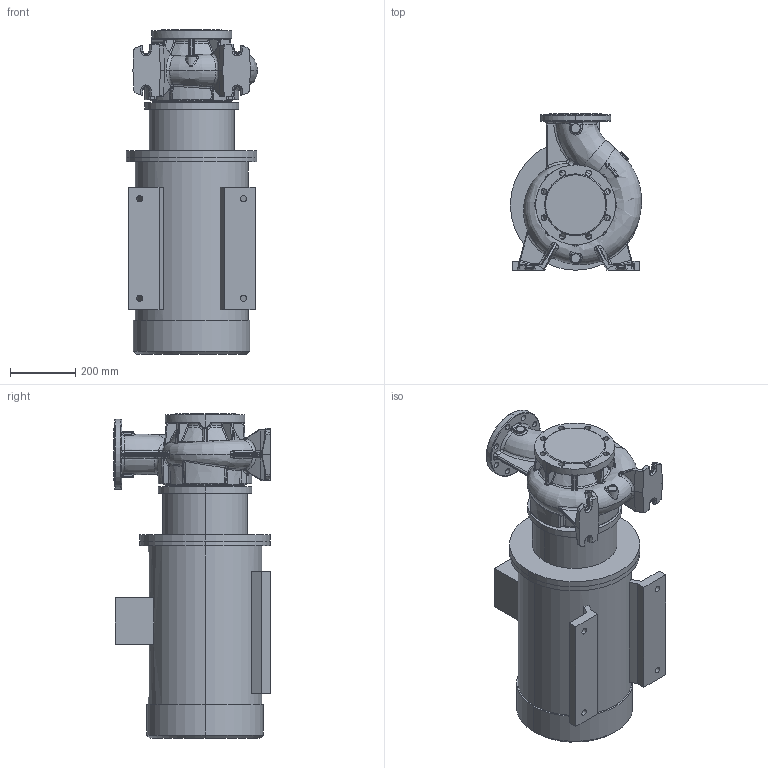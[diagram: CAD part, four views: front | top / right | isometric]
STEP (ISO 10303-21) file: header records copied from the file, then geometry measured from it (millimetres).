
FILE_DESCRIPTION (( 'STEP AP214' ), '1' );
FILE_NAME ('KRM 125-100-160-2-37.STEP', '2026-04-22T08:03:33', ( '' ), ( '' ), 'SwSTEP 2.0', 'SolidWorks 2016', '' );
FILE_SCHEMA (( 'AUTOMOTIVE_DESIGN' ));
Length unit declared in the file: millimetre
Products named in the file (1): KRM 125-100-160-2-37
Bounding box: 402.34 x 480 x 995.8 mm (x, y, z)
Volume: 91016638.4 mm3; surface area: 2461437.3 mm2
Topology: 4 solids, 4 shells, 1100 faces, 2656 edges, 1556 vertices
Faces by surface type: bspline 476, cylinder 273, plane 182, torus 82, cone 58, sphere 29
Entity records: 87485 total; most frequent: CARTESIAN_POINT 53414, ORIENTED_EDGE 5248, DIRECTION 3786, EDGE_CURVE 2624, AXIS2_PLACEMENT_3D 1619, VERTEX_POINT 1556, EDGE_LOOP 1164, UNCERTAINTY_MEASURE_WITH_UNIT 1106
